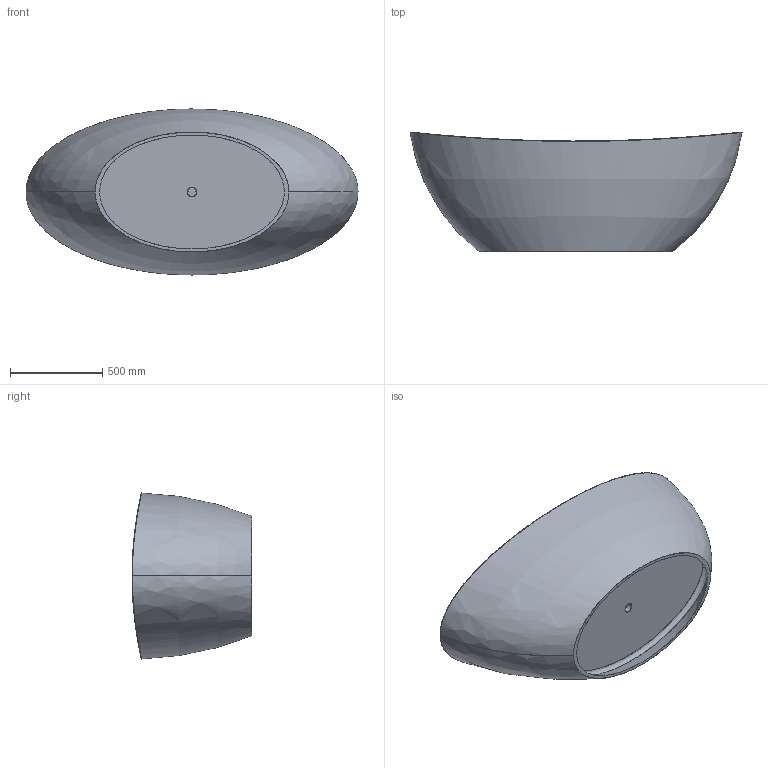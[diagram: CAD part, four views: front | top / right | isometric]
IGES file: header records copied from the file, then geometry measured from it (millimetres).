
Start section: SolidWorks IGES file using analytic representation for surfaces
Global section: file name: D:\Users\M.Szymanski\Desktop\Wanny\Namur\03. do przegrania\WOW_NAMUR_90x180.IGS; native system: SolidWorks 2011; preprocessor: SolidWorks 2011; author: M.Szymanski; date: 180409.140100; units: millimetre
Bounding box: 1799.28 x 649.72 x 899.8 mm (x, y, z)
Surface area: 6131011.4 mm2 (no closed solid volume)
Topology: 0 solids, 0 shells, 43 faces, 1426 edges, 1421 vertices
Faces by surface type: bspline 31, revolution 12
